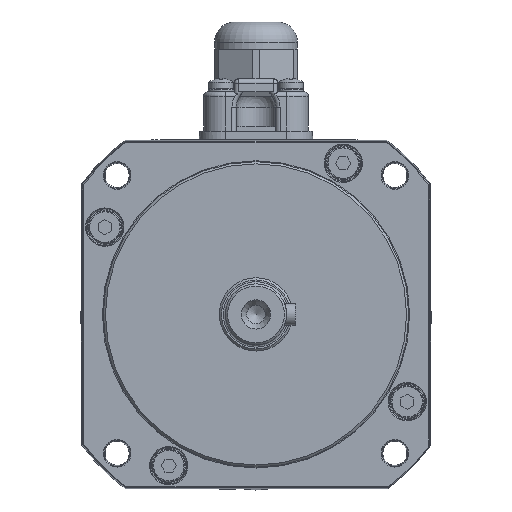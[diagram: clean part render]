
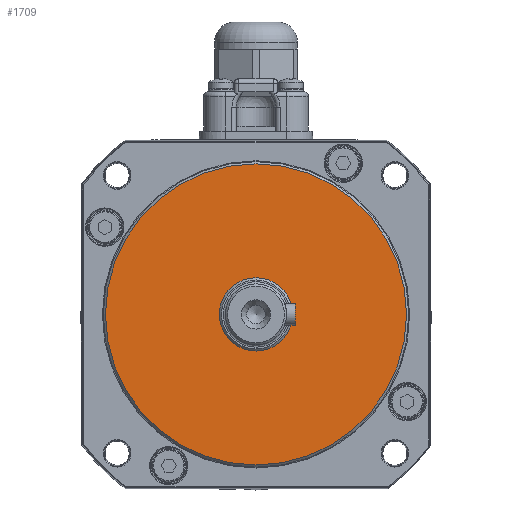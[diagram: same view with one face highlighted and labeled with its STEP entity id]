
A CAD part, front view. The second image highlights one B-rep face of the part: STEP entity #1709.
In plain terms, the highlighted planar face has unit normal (0, -1, 0).
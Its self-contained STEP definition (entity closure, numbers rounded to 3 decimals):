
#1709=ADVANCED_FACE('',(#5242,#5243),#5244,.T.);
#5242=FACE_BOUND('',#12343,.T.);
#5243=FACE_OUTER_BOUND('',#12344,.T.);
#5244=PLANE('',#12345);
#12343=EDGE_LOOP('',(#24875));
#12344=EDGE_LOOP('',(#24876));
#12345=AXIS2_PLACEMENT_3D('',#24877,#24878,#24879);
#24875=ORIENTED_EDGE('',*,*,#26019,.T.);
#24876=ORIENTED_EDGE('',*,*,#29744,.T.);
#24877=CARTESIAN_POINT('',(0.,-85.,0.));
#24878=DIRECTION('',(0.,-1.0,0.));
#24879=DIRECTION('',(-1.0,0.,0.0));
#26019=EDGE_CURVE('',#30133,#30133,#30134,.F.);
#29744=EDGE_CURVE('',#36134,#36134,#36135,.T.);
#30133=VERTEX_POINT('',#36683);
#30134=CIRCLE('',#36684,8.4);
#36134=VERTEX_POINT('',#47223);
#36135=CIRCLE('',#47224,34.5);
#36683=CARTESIAN_POINT('',(0.,-85.,-8.4));
#36684=AXIS2_PLACEMENT_3D('',#47649,#47650,#47651);
#47223=CARTESIAN_POINT('',(0.,-85.,-34.5));
#47224=AXIS2_PLACEMENT_3D('',#53889,#53890,#53891);
#47649=CARTESIAN_POINT('',(0.,-85.,0.));
#47650=DIRECTION('',(0.,-1.0,0.));
#47651=DIRECTION('',(0.0,0.,-1.0));
#53889=CARTESIAN_POINT('',(0.,-85.,0.));
#53890=DIRECTION('',(0.,-1.0,0.));
#53891=DIRECTION('',(0.,0.,-1.0));
